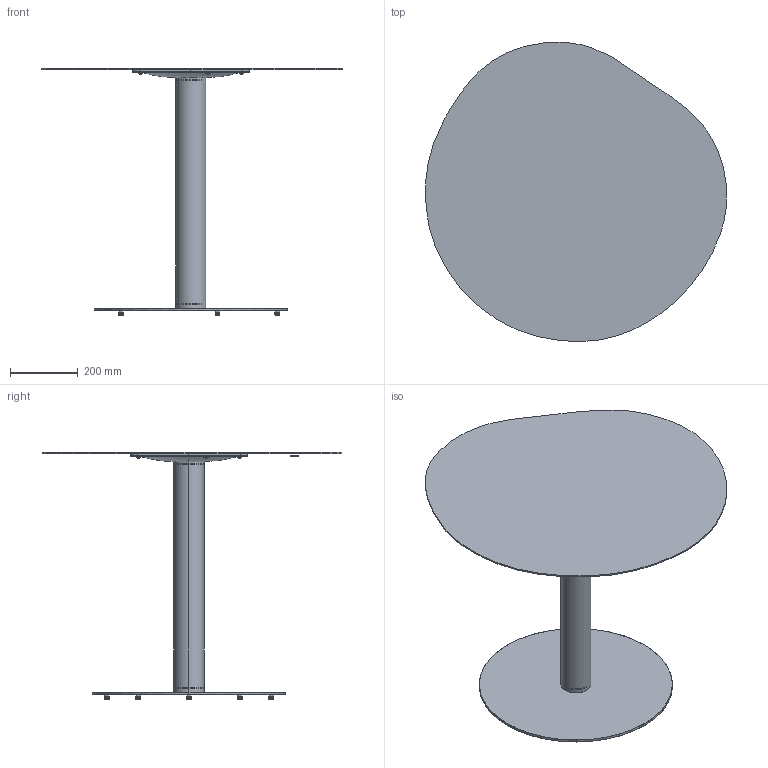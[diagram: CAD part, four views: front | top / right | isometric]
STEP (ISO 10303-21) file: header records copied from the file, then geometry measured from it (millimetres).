
FILE_DESCRIPTION(/* description */ (''),/* implementation_level */ '2;1');
FILE_NAME(/* name */ 'Pond Dining Table_Ferm living_3D',/* time_stamp */ '2023-03-20T11:16:41+01:00',/* author */ (''),/* organization */ (''),/* preprocessor_version */ 'ST-DEVELOPER v16.5',/* originating_system */ 'Rhino 7.27',/* authorisation */ '');
FILE_SCHEMA (('CONFIG_CONTROL_DESIGN'));
Products named in the file (1): Document
Bounding box: 888.1 x 883.01 x 729 mm (x, y, z)
Volume: 3497967.6 mm3; surface area: 2526080.7 mm2
Topology: 39 solids, 42 shells, 2088 faces, 4911 edges, 2881 vertices
Faces by surface type: bspline 1272, cylinder 502, plane 314
Entity records: 164453 total; most frequent: CARTESIAN_POINT 136153, ORIENTED_EDGE 9218, EDGE_CURVE 4621, VERTEX_POINT 2639, B_SPLINE_CURVE_WITH_KNOTS 2421, EDGE_LOOP 2100, ADVANCED_FACE 2042, FACE_OUTER_BOUND 2042
